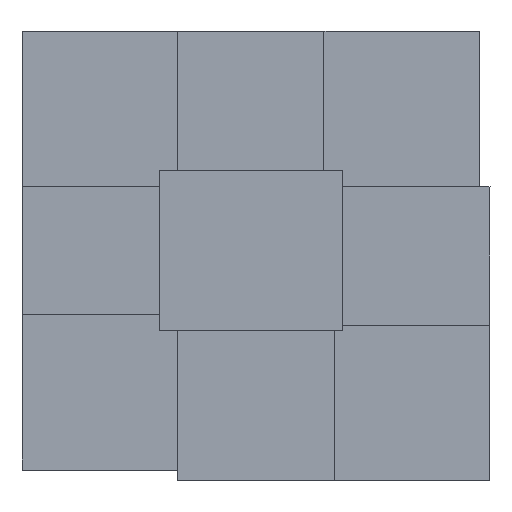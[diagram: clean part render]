
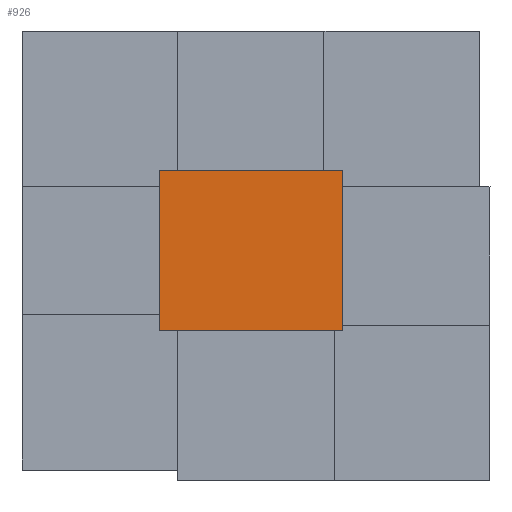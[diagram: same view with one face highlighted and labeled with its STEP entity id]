
A CAD part, left-side view. The second image highlights one B-rep face of the part: STEP entity #926.
In plain terms, the highlighted planar face has unit normal (-1, 0, 0).
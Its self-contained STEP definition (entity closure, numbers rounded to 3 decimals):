
#808=CARTESIAN_POINT('Line Origine',(0.,0.,51.5)) ;
#812=CARTESIAN_POINT('Vertex',(0.,0.,0.)) ;
#814=CARTESIAN_POINT('Vertex',(0.,0.,103.)) ;
#883=CARTESIAN_POINT('Vertex',(0.,118.,0.)) ;
#886=CARTESIAN_POINT('Line Origine',(0.,118.,51.5)) ;
#890=CARTESIAN_POINT('Vertex',(0.,118.,103.)) ;
#905=CARTESIAN_POINT('Axis2P3D Location',(0.,118.,0.)) ;
#910=CARTESIAN_POINT('Line Origine',(0.,59.,0.)) ;
#915=CARTESIAN_POINT('Line Origine',(0.,59.,103.)) ;
#809=DIRECTION('Vector Direction',(0.,0.,1.)) ;
#887=DIRECTION('Vector Direction',(0.,0.,1.)) ;
#906=DIRECTION('Axis2P3D Direction',(-1.,0.,0.)) ;
#907=DIRECTION('Axis2P3D XDirection',(0.,-1.,0.)) ;
#911=DIRECTION('Vector Direction',(0.,-1.,0.)) ;
#916=DIRECTION('Vector Direction',(0.,-1.,0.)) ;
#908=AXIS2_PLACEMENT_3D('Plane Axis2P3D',#905,#906,#907) ;
#921=ORIENTED_EDGE('',*,*,#892,.F.) ;
#922=ORIENTED_EDGE('',*,*,#914,.T.) ;
#923=ORIENTED_EDGE('',*,*,#816,.T.) ;
#924=ORIENTED_EDGE('',*,*,#919,.F.) ;
#810=VECTOR('Line Direction',#809,1.) ;
#888=VECTOR('Line Direction',#887,1.) ;
#912=VECTOR('Line Direction',#911,1.) ;
#917=VECTOR('Line Direction',#916,1.) ;
#926=ADVANCED_FACE('Body.2-molde-superior',(#925),#909,.T.) ;
#816=EDGE_CURVE('',#813,#815,#811,.T.) ;
#892=EDGE_CURVE('',#884,#891,#889,.T.) ;
#914=EDGE_CURVE('',#884,#813,#913,.T.) ;
#919=EDGE_CURVE('',#891,#815,#918,.T.) ;
#920=EDGE_LOOP('',(#921,#922,#923,#924)) ;
#925=FACE_OUTER_BOUND('',#920,.T.) ;
#811=LINE('Line',#808,#810) ;
#889=LINE('Line',#886,#888) ;
#913=LINE('Line',#910,#912) ;
#918=LINE('Line',#915,#917) ;
#909=PLANE('',#908) ;
#813=VERTEX_POINT('',#812) ;
#815=VERTEX_POINT('',#814) ;
#884=VERTEX_POINT('',#883) ;
#891=VERTEX_POINT('',#890) ;
